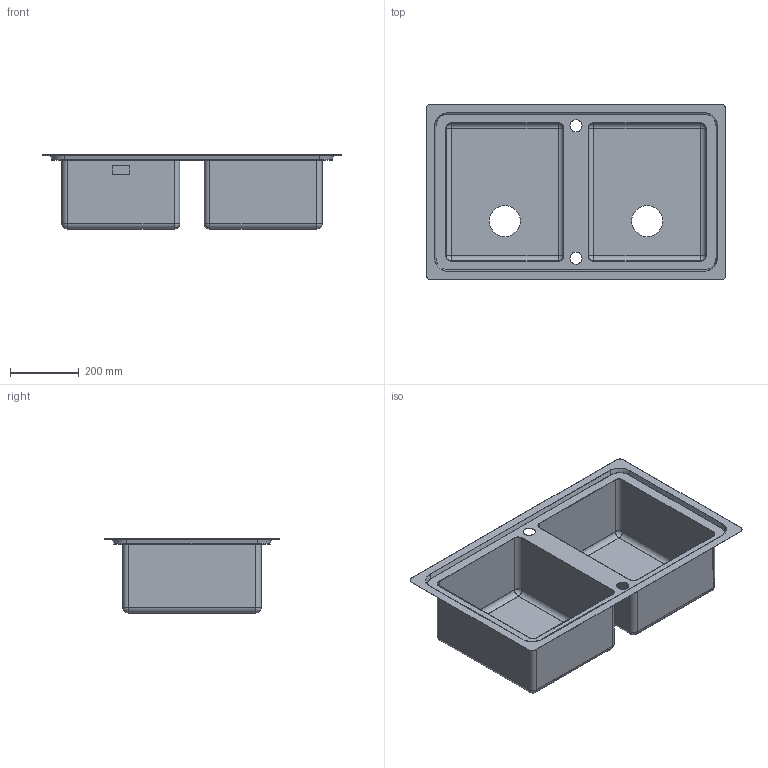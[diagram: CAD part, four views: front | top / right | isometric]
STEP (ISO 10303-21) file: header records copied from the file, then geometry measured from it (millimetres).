
FILE_DESCRIPTION(('CATIA V5 STEP Exchange'),'2;1');
FILE_NAME('C:\Users\linop\Desktop\LFT862.stp','2018-05-30T16:22:56+00:00',('none'),('none'),'CATIA Version 5-6 Release 2014','CATIA V5 STEP AP203','none');
FILE_SCHEMA(('CONFIG_CONTROL_DESIGN'));
Length unit declared in the file: millimetre
Products named in the file (1): LFT862
Bounding box: 870 x 510 x 214.8 mm (x, y, z)
Volume: 978291.7 mm3; surface area: 2043558.7 mm2
Topology: 3 solids, 3 shells, 126 faces, 316 edges, 184 vertices
Faces by surface type: cylinder 52, plane 50, sphere 16, cone 8
Entity records: 3571 total; most frequent: CARTESIAN_POINT 657, ORIENTED_EDGE 600, DIRECTION 532, EDGE_CURVE 300, AXIS2_PLACEMENT_3D 233, VERTEX_POINT 184, VECTOR 180, LINE 180
